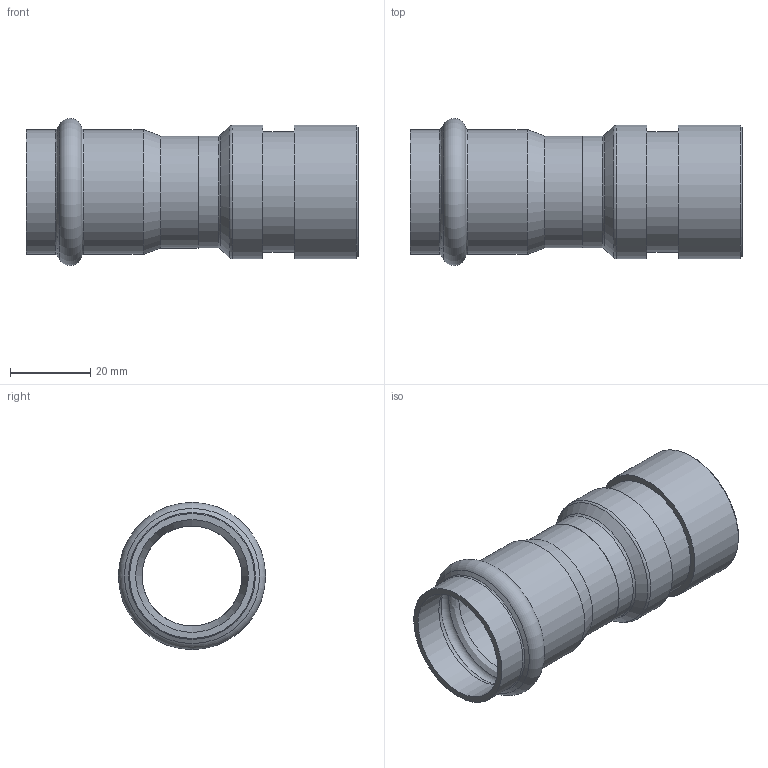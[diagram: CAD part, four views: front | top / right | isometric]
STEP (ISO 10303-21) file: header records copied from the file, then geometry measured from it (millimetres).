
FILE_DESCRIPTION((''),'2;1');
FILE_NAME('G:\Nirosan-Schmiedefeld\Technics\CAD\Bauteile VA\028\6925028337(0).stp','2012-05-18T11:54:29',('herberg'),(''),'Autodesk Inventor 2009','Autodesk Inventor 2009','');
FILE_SCHEMA(('AUTOMOTIVE_DESIGN { 1 0 10303 214 1 1 1 1 }'));
Length unit declared in the file: millimetre
Products named in the file (3): 6925028337(0); HM_6924328(1); sp28337(0)
Assembly tree (2 placements, depth 2):
  6925028337(0)
    HM_6924328(1)
    sp28337(0)
Bounding box: 83 x 36.79 x 36.79 mm (x, y, z)
Volume: 16677.5 mm3; surface area: 16905.6 mm2
Topology: 2 solids, 2 shells, 36 faces, 68 edges, 38 vertices
Faces by surface type: cylinder 12, cone 8, bspline 6, plane 6, torus 4
Full cylindrical faces by diameter (mm): 25 x2, 26.64 x1, 28 x2, 28.2 x2, 30.2 x1, 31.2 x2, 33.4 x2
Entity records: 1054 total; most frequent: CARTESIAN_POINT 377, DIRECTION 142, ORIENTED_EDGE 72, EDGE_LOOP 72, AXIS2_PLACEMENT_3D 71, VERTEX_POINT 36, CIRCLE 36, EDGE_CURVE 36
